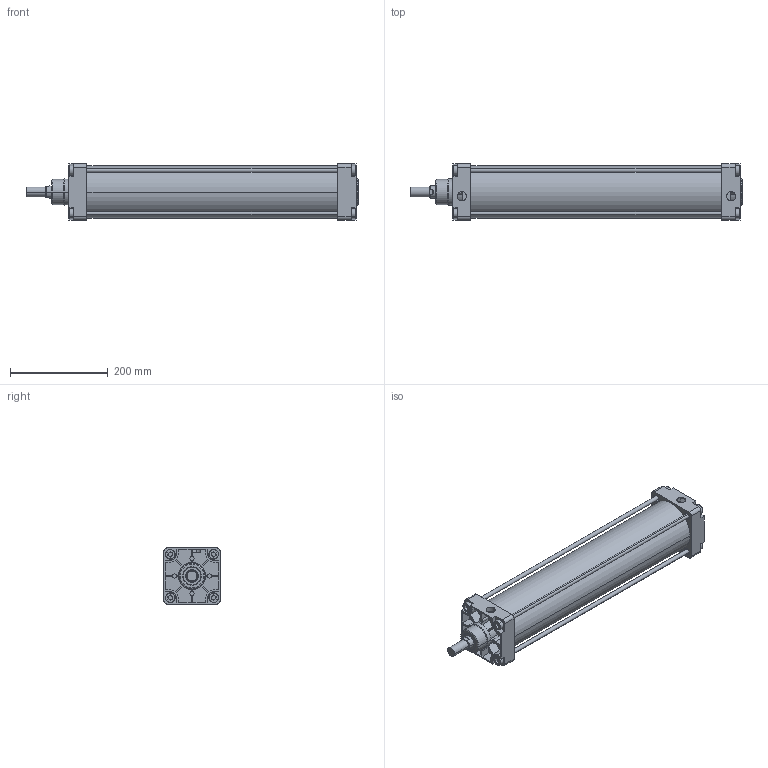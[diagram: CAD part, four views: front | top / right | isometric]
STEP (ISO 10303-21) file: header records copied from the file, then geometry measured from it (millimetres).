
FILE_DESCRIPTION(('CATIA V5 STEP Exchange'),'2;1');
FILE_NAME('D:\stp file for catalog\PNC\100\PNC 100-25-450.stp','2015-10-20T05:59:41+00:00',('none'),('none'),'Version 5-6 Release 2012','CATIA V5 STEP AP203','none');
FILE_SCHEMA(('CONFIG_CONTROL_DESIGN'));
Length unit declared in the file: millimetre
Products named in the file (1): PNC 100-25-450-00
Assembly tree (2 placements, depth 2):
  PNC 100-25-450-00
    #58
    #14164
Bounding box: 680.5 x 115 x 115 mm (x, y, z)
Volume: 2202469.5 mm3; surface area: 620632.8 mm2
Topology: 6 solids, 6 shells, 534 faces, 1388 edges, 914 vertices
Faces by surface type: plane 336, cylinder 166, torus 26, cone 6
Entity records: 14688 total; most frequent: ORIENTED_EDGE 2776, CARTESIAN_POINT 2595, DIRECTION 1902, EDGE_CURVE 1388, VECTOR 922, LINE 922, VERTEX_POINT 914, AXIS2_PLACEMENT_3D 719
